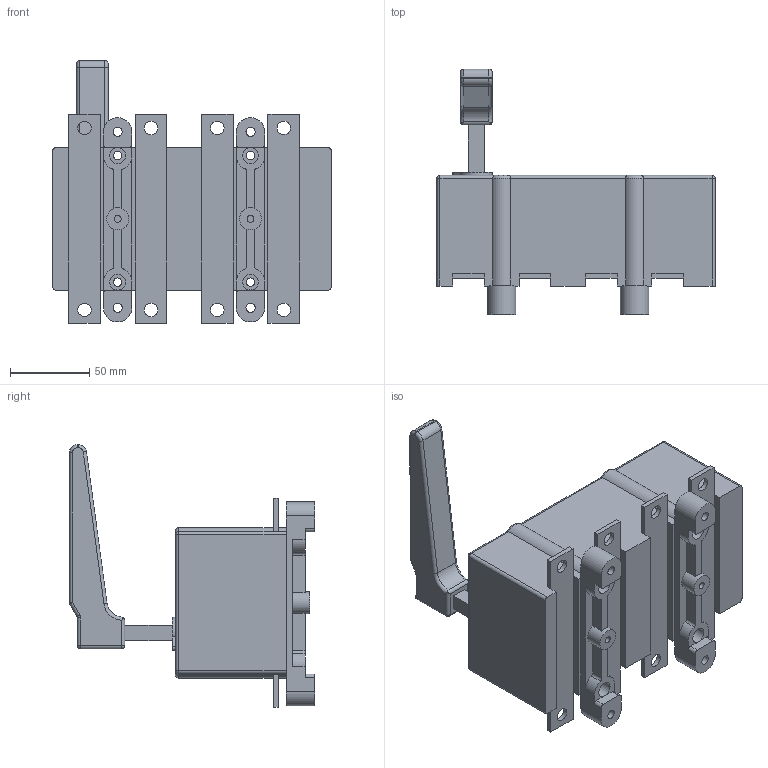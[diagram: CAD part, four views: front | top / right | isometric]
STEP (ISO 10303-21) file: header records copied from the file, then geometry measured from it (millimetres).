
FILE_DESCRIPTION(/* description */ (''),/* implementation_level */ '2;1');
FILE_NAME(/* name */ 'RA160 P3 N-R.stp',/* time_stamp */ '2021-08-17T13:42:10+02:00',/* author */ (''),/* organization */ (''),/* preprocessor_version */ 'ST-DEVELOPER v18.1',/* originating_system */ 'SIEMENS PLM Software NX 1965',/* authorisation */ '');
FILE_SCHEMA (('AUTOMOTIVE_DESIGN { 1 0 10303 214 3 1 1 1 }'));
Length unit declared in the file: millimetre
Products named in the file (1): RA160 P3 N-R_stp
Bounding box: 176 x 155 x 166 mm (x, y, z)
Volume: 1175362.1 mm3; surface area: 109842 mm2
Topology: 1 solids, 1 shells, 240 faces, 619 edges, 380 vertices
Faces by surface type: plane 120, cylinder 98, torus 12, sphere 10
Full cylindrical faces by diameter (mm): 4.3 x2, 5.3 x4, 5.8 x4, 8.5 x8, 10 x8, 14 x2
Entity records: 7107 total; most frequent: CARTESIAN_POINT 1272, DIRECTION 1245, ORIENTED_EDGE 1146, EDGE_CURVE 573, AXIS2_PLACEMENT_3D 445, VERTEX_POINT 372, LINE 355, VECTOR 355
